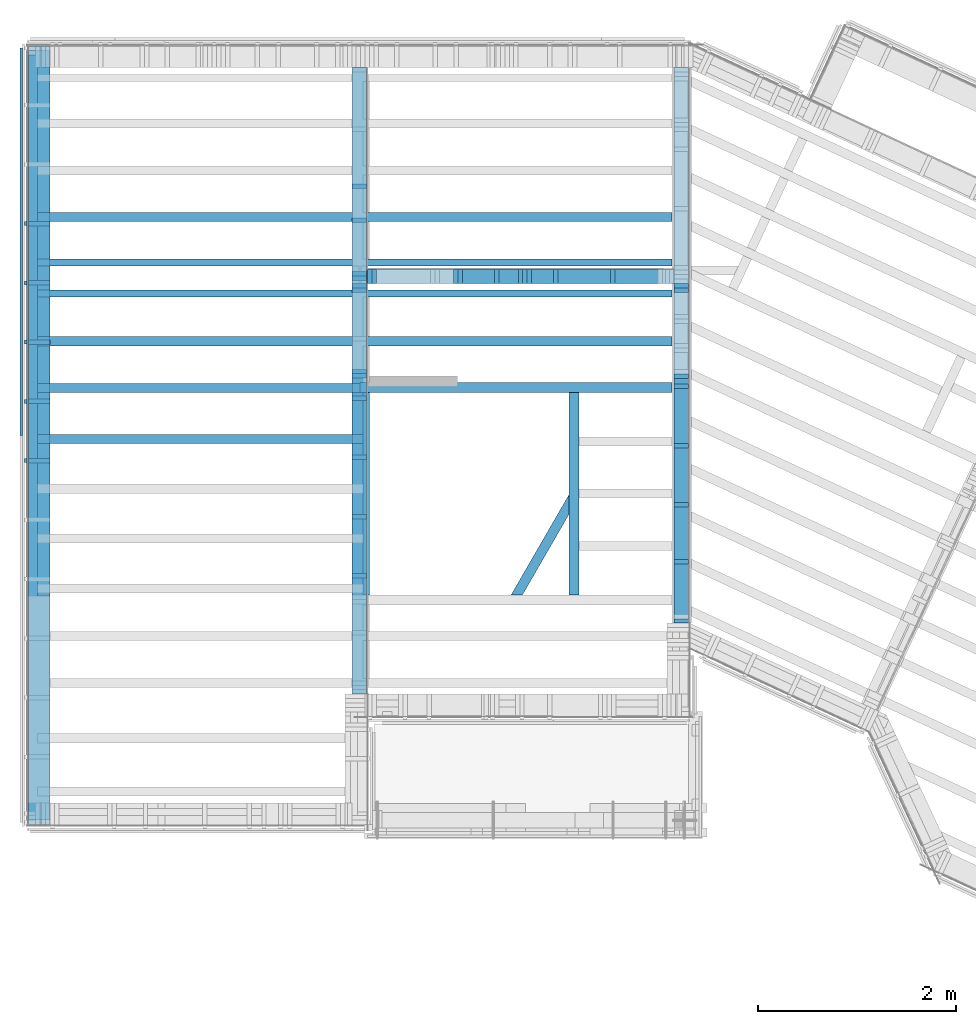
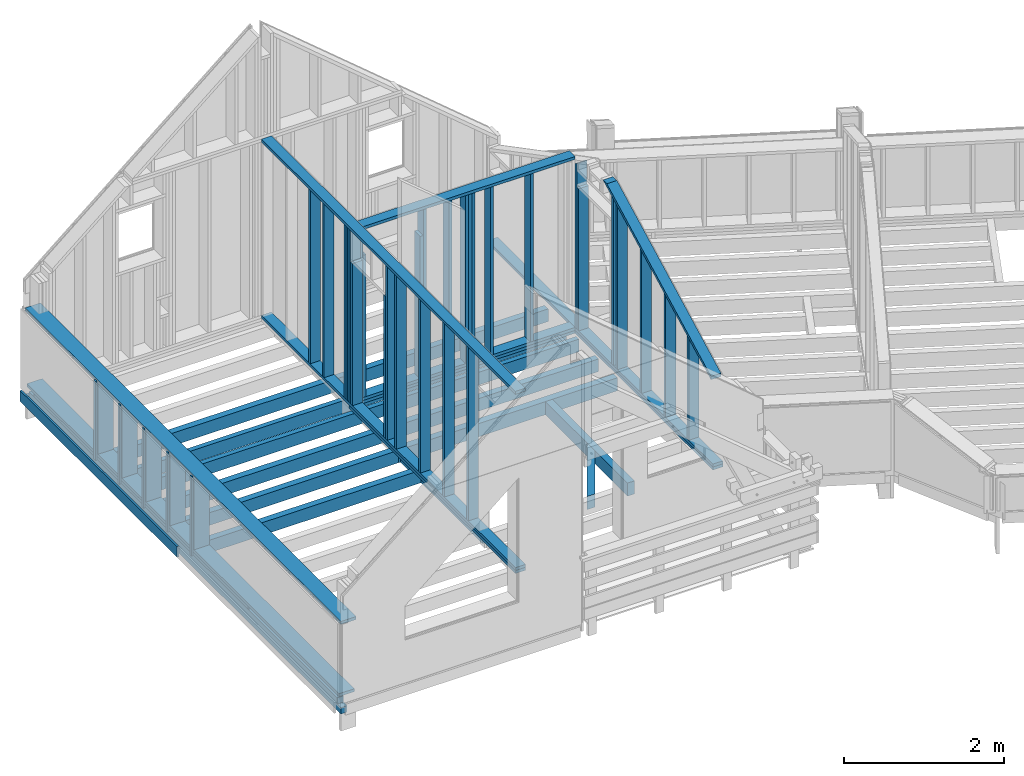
# One storey, part 6 of 24: 63 members.
"""IFC2X3 building model written with IfcOpenShell, lengths in metres."""

from ifc_helpers import new_model, si_unit, direction, frame, origin_with_axes, place, context, subcontext, project, spatial, faceted_brep, material, element, save


model = new_model("IFC2X3")

# Units and contexts
model_context = context("Model", 3, precision=1e-06, world=origin_with_axes(), true_north=direction((0.0, 1.0, 0.0)))
body_context = subcontext(model_context, "Body", "Model", "MODEL_VIEW")
ifc_project = project(units=[si_unit("LENGTHUNIT", "METRE"), si_unit("AREAUNIT", "SQUARE_METRE"), si_unit("VOLUMEUNIT", "CUBIC_METRE"), si_unit("PLANEANGLEUNIT", "RADIAN")], contexts=[model_context])

# Site, building, storey
site_placement = place(None, origin_with_axes())
site = spatial("IfcSite", under=ifc_project, at=site_placement, CompositionType="ELEMENT")
building_placement = place(site_placement, origin_with_axes())
building = spatial("IfcBuilding", under=site, at=building_placement, Name="Building 1", CompositionType="ELEMENT")
storey_placement = place(building_placement, origin_with_axes())
storey = spatial("IfcBuildingStorey", under=building, at=storey_placement, Name="Premier Etage", CompositionType="ELEMENT", Elevation=0.0)

# Members
ifc_material_1 = material(Name="Epicéa C24")
member_1_placement = place(storey_placement, frame((3.3635, 5.5451088, 5.5354713), z_axis=(-1.0, 0.0, 0.0), x_axis=(0.0, 0.0, -1.0)))
element("IfcMember", 1, at=member_1_placement, inside=storey, material=ifc_material_1, Name="Montant", context=body_context, shape_type="Brep", body=[
    faceted_brep([(2.6404713, -0.0225, -0.0725), (2.6404713, 0.0225, -0.0725), (2.6404713, 0.0225, 0.0725), (2.6404713, -0.0225, 0.0725), (0.0, -0.0225, 0.0725), (0.0, -0.0225, -0.0725), (0.0, 0.0225, -0.0725), (0.0, 0.0225, 0.0725)], [[[0, 1, 2, 3]], [[0, 3, 4, 5]], [[1, 0, 5, 6]], [[2, 1, 6, 7]], [[3, 2, 7, 4]], [[4, 7, 6, 5]]]),
])
member_2_placement = place(storey_placement, frame((4.9951817, 5.5627176, 5.4543053), z_axis=(0.0, 1.0, 0.0), x_axis=(0.0, 0.0, -1.0)))
element("IfcMember", 2, at=member_2_placement, inside=storey, material=ifc_material_1, Name="Montant", context=body_context, shape_type="Brep", body=[
    faceted_brep([(2.5593053, -0.0225, -0.0725), (2.5593053, 0.0225, -0.0725), (2.5593053, 0.0225, 0.0725), (2.5593053, -0.0225, 0.0725), (0.0, 0.0225, -0.0725), (0.0, 0.0225, 0.0725), (0.0, -0.0225, -0.0725), (0.0, -0.0225, 0.0725)], [[[0, 1, 2, 3]], [[2, 1, 4, 5]], [[1, 0, 6, 4]], [[0, 3, 7, 6]], [[3, 2, 5, 7]], [[7, 5, 4, 6]]]),
])
member_3_placement = place(storey_placement, frame((3.3635, 4.6001088, 5.061), z_axis=(1.0, 0.0, 0.0), x_axis=(0.0, 0.0, -1.0)))
element("IfcMember", 3, at=member_3_placement, inside=storey, material=ifc_material_1, Name="Montant", context=body_context, shape_type="Brep", body=[
    faceted_brep([(2.166, -0.0225, -0.0725), (2.166, 0.0225, -0.0725), (2.166, 0.0225, 0.0725), (2.166, -0.0225, 0.0725), (0.0, -0.0225, 0.0725), (0.0, -0.0225, -0.0725), (0.0, 0.0225, -0.0725), (0.0, 0.0225, 0.0725)], [[[0, 1, 2, 3]], [[0, 3, 4, 5]], [[1, 0, 5, 6]], [[2, 1, 6, 7]], [[3, 2, 7, 4]], [[4, 7, 6, 5]]]),
])
member_4_placement = place(storey_placement, frame((6.551, 5.5627176, 5.4768053), z_axis=(0.0, -1.0, 0.0), x_axis=(-1.0, 0.0, 0.0)))
element("IfcMember", 4, at=member_4_placement, inside=storey, material=ifc_material_1, Name="Montant", context=body_context, shape_type="Brep", body=[
    faceted_brep([(3.103, 0.0225, -0.0725), (3.103, 0.0225, 0.0725), (3.103, -0.0225, 0.0725), (3.103, -0.0225, -0.0725), (0.0, 0.0225, 0.0725), (0.0, 0.0225, -0.0725), (0.0, -0.0225, -0.0725), (0.0, -0.0225, 0.0725)], [[[0, 1, 2, 3]], [[4, 5, 6, 7]], [[3, 6, 5, 0]], [[2, 7, 6, 3]], [[1, 4, 7, 2]], [[0, 5, 4, 1]]]),
])
member_5_placement = place(storey_placement, frame((5.353, 5.5627176, 5.4543053), z_axis=(0.0, 1.0, 0.0), x_axis=(0.0, 0.0, -1.0)))
element("IfcMember", 5, at=member_5_placement, inside=storey, material=ifc_material_1, Name="Montant", context=body_context, shape_type="Brep", body=[
    faceted_brep([(2.5593053, -0.0225, -0.0725), (2.5593053, 0.0225, -0.0725), (2.5593053, 0.0225, 0.0725), (2.5593053, -0.0225, 0.0725), (0.0, 0.0225, -0.0725), (0.0, 0.0225, 0.0725), (0.0, -0.0225, -0.0725), (0.0, -0.0225, 0.0725)], [[[0, 1, 2, 3]], [[2, 1, 4, 5]], [[1, 0, 6, 4]], [[0, 3, 7, 6]], [[3, 2, 5, 7]], [[7, 5, 4, 6]]]),
])
member_6_placement = place(storey_placement, frame((0.122, 7.896, 4.0003151), z_axis=(1.0, 0.0, 0.0), x_axis=(0.0, -1.0, 0.0)))
element("IfcMember", 6, at=member_6_placement, inside=storey, material=ifc_material_1, Name="Montant", context=body_context, shape_type="Brep", body=[
    faceted_brep([(7.884, 0.0225, -0.11), (7.884, 0.0225, 0.11), (7.884, -0.0225, 0.11), (7.884, -0.0225, -0.11), (0.0, 0.0225, 0.11), (0.0, 0.0225, -0.11), (0.0, -0.0225, -0.11), (0.0, -0.0225, 0.11)], [[[0, 1, 2, 3]], [[4, 5, 6, 7]], [[1, 4, 7, 2]], [[0, 5, 4, 1]], [[3, 6, 5, 0]], [[2, 7, 6, 3]]]),
])
member_7_placement = place(storey_placement, frame((0.122, 5.498, 3.9778151), z_axis=(-1.0, 0.0, 0.0), x_axis=(0.0, 0.0, -1.0)))
element("IfcMember", 7, at=member_7_placement, inside=storey, material=ifc_material_1, Name="Montant", context=body_context, shape_type="Brep", body=[
    faceted_brep([(1.0828151, -0.0225, -0.11), (1.0828151, 0.0225, -0.11), (1.0828151, 0.0225, 0.11), (1.0828151, -0.0225, 0.11), (0.0, -0.0225, 0.11), (0.0, -0.0225, -0.11), (0.0, 0.0225, -0.11), (0.0, 0.0225, 0.11)], [[[0, 1, 2, 3]], [[0, 3, 4, 5]], [[1, 0, 5, 6]], [[2, 1, 6, 7]], [[3, 2, 7, 4]], [[4, 7, 6, 5]]]),
])
member_8_placement = place(storey_placement, frame((3.3635, 5.5901088, 5.5354713), z_axis=(-1.0, 0.0, 0.0), x_axis=(0.0, 0.0, -1.0)))
element("IfcMember", 8, at=member_8_placement, inside=storey, material=ifc_material_1, Name="Montant", context=body_context, shape_type="Brep", body=[
    faceted_brep([(2.6404713, -0.0225, -0.0725), (2.6404713, 0.0225, -0.0725), (2.6404713, 0.0225, 0.0725), (2.6404713, -0.0225, 0.0725), (0.0, -0.0225, 0.0725), (0.0, -0.0225, -0.0725), (0.0, 0.0225, -0.0725), (0.0, 0.0225, 0.0725)], [[[0, 1, 2, 3]], [[0, 3, 4, 5]], [[1, 0, 5, 6]], [[2, 1, 6, 7]], [[3, 2, 7, 4]], [[4, 7, 6, 5]]]),
])
member_9_placement = place(storey_placement, frame((6.6235, 2.0514744, 2.8275), z_axis=(-1.0, 0.0, 0.0), x_axis=(0.0, 1.0, 0.0)))
element("IfcMember", 9, at=member_9_placement, inside=storey, material=ifc_material_1, Name="Lisse basse", context=body_context, shape_type="Brep", body=[
    faceted_brep([(3.4387432, -0.0225, -0.0725), (3.4387432, -0.0225, 0.0725), (0.0, -0.0225, 0.0725), (0.0, -0.0225, -0.0725), (3.4387432, 0.0225, 0.0725), (0.0, 0.0225, 0.0725), (3.4387432, 0.0225, -0.0725), (0.0, 0.0225, -0.0725)], [[[0, 1, 2, 3]], [[1, 4, 5, 2]], [[4, 6, 7, 5]], [[6, 0, 3, 7]], [[0, 6, 4, 1]], [[2, 5, 7, 3]]]),
])
member_10_placement = place(storey_placement, frame((3.3635, 5.4701088, 5.5354713), z_axis=(1.0, 0.0, 0.0), x_axis=(0.0, 0.0, -1.0)))
element("IfcMember", 10, at=member_10_placement, inside=storey, material=ifc_material_1, Name="Montant", context=body_context, shape_type="Brep", body=[
    faceted_brep([(2.6404713, -0.0225, -0.0725), (2.6404713, 0.0225, -0.0725), (2.6404713, 0.0225, 0.0725), (2.6404713, -0.0225, 0.0725), (0.0, -0.0225, 0.0725), (0.0, -0.0225, -0.0725), (0.0, 0.0225, -0.0725), (0.0, 0.0225, 0.0725)], [[[0, 1, 2, 3]], [[0, 3, 4, 5]], [[1, 0, 5, 6]], [[2, 1, 6, 7]], [[3, 2, 7, 4]], [[4, 7, 6, 5]]]),
])
member_11_placement = place(storey_placement, frame((3.5155, 5.5627176, 5.061), z_axis=(0.0, 1.0, 0.0), x_axis=(0.0, 0.0, -1.0)))
element("IfcMember", 11, at=member_11_placement, inside=storey, material=ifc_material_1, Name="Montant", context=body_context, shape_type="Brep", body=[
    faceted_brep([(2.166, -0.0225, -0.0725), (2.166, 0.0225, -0.0725), (2.166, 0.0225, 0.0725), (2.166, -0.0225, 0.0725), (0.0, -0.0225, 0.0725), (0.0, -0.0225, -0.0725), (0.0, 0.0225, -0.0725), (0.0, 0.0225, 0.0725)], [[[0, 1, 2, 3]], [[0, 3, 4, 5]], [[1, 0, 5, 6]], [[2, 1, 6, 7]], [[3, 2, 7, 4]], [[4, 7, 6, 5]]]),
])
member_12_placement = place(storey_placement, frame((6.6235, 3.2494744, 4.7689421), z_axis=(1.0, 0.0, 0.0), x_axis=(0.0, 0.0, -1.0)))
element("IfcMember", 12, at=member_12_placement, inside=storey, material=ifc_material_1, Name="Montant", context=body_context, shape_type="Brep", body=[
    faceted_brep([(0.0235466, -0.0225, 0.0725), (0.0, 0.0225, 0.0725), (0.0, 0.0225, -0.0725), (0.0235466, -0.0225, -0.0725), (1.8739421, 0.0225, 0.0725), (1.8739421, 0.0225, -0.0725), (1.8739421, -0.0225, 0.0725), (1.8739421, -0.0225, -0.0725)], [[[0, 1, 2, 3]], [[2, 1, 4, 5]], [[1, 0, 6, 4]], [[0, 3, 7, 6]], [[7, 5, 4, 6]], [[3, 2, 5, 7]]]),
])
ifc_material_2 = material(Name="NH II")
member_13_placement = place(storey_placement, frame((-0.0595, 3.954, 2.7225), z_axis=(0.0, 0.0, -1.0), x_axis=(0.0, 1.0, 0.0)))
element("IfcMember", 13, at=member_13_placement, inside=storey, material=ifc_material_2, Name="contre poutre", context=body_context, shape_type="Brep", body=[
    faceted_brep([(0.0, 0.0135, -0.0825), (0.0, -0.0135, -0.0825), (0.0, -0.0135, 0.0825), (0.0, 0.0135, 0.0825), (3.922, -0.0135, -0.0825), (3.922, -0.0135, 0.0825), (3.922, 0.0135, -0.0825), (3.922, 0.0135, 0.0825)], [[[0, 1, 2, 3]], [[2, 1, 4, 5]], [[1, 0, 6, 4]], [[6, 7, 5, 4]], [[3, 2, 5, 7]], [[0, 3, 7, 6]]]),
])
member_14_placement = place(storey_placement, frame((0.122, 4.898, 3.9778151), z_axis=(-1.0, 0.0, 0.0), x_axis=(0.0, 0.0, -1.0)))
element("IfcMember", 14, at=member_14_placement, inside=storey, material=ifc_material_1, Name="Montant", context=body_context, shape_type="Brep", body=[
    faceted_brep([(1.0828151, -0.0225, -0.11), (1.0828151, 0.0225, -0.11), (1.0828151, 0.0225, 0.11), (1.0828151, -0.0225, 0.11), (0.0, -0.0225, 0.11), (0.0, -0.0225, -0.11), (0.0, 0.0225, -0.11), (0.0, 0.0225, 0.11)], [[[0, 1, 2, 3]], [[0, 3, 4, 5]], [[1, 0, 5, 6]], [[2, 1, 6, 7]], [[3, 2, 7, 4]], [[4, 7, 6, 5]]]),
])
member_15_placement = place(storey_placement, frame((6.551, 5.5627176, 2.8275), z_axis=(0.0, -1.0, 0.0), x_axis=(-1.0, 0.0, 0.0)))
element("IfcMember", 15, at=member_15_placement, inside=storey, material=ifc_material_1, Name="Lisse basse", context=body_context, shape_type="Brep", body=[
    faceted_brep([(3.115, -0.0225, -0.0725), (0.0, -0.0225, -0.0725), (0.0, 0.0225, -0.0725), (3.115, 0.0225, -0.0725), (3.115, 0.0225, 0.0725), (3.115, -0.0225, 0.0725), (0.0, -0.0225, 0.0725), (0.0, 0.0225, 0.0725)], [[[0, 1, 2, 3]], [[3, 4, 5, 0]], [[2, 1, 6, 7]], [[6, 1, 0, 5]], [[2, 7, 4, 3]], [[7, 6, 5, 4]]]),
])
member_16_placement = place(storey_placement, frame((-0.013, 4.898, 4.0178151), z_axis=(-1.0, 0.0, 0.0), x_axis=(0.0, 0.0, -1.0)))
element("IfcMember", 16, at=member_16_placement, inside=storey, material=ifc_material_1, Name="latte 27/40", context=body_context, shape_type="Brep", body=[
    faceted_brep([(1.2078151, -0.02, 0.012), (0.0, -0.02, 0.012), (0.0, -0.02, -0.012), (1.2078151, -0.02, -0.012), (1.2078151, 0.02, -0.012), (0.0, 0.02, -0.012), (0.0, 0.02, 0.012), (1.2078151, 0.02, 0.012)], [[[0, 1, 2, 3]], [[4, 3, 2, 5]], [[6, 7, 4, 5]], [[0, 7, 6, 1]], [[7, 0, 3, 4]], [[1, 6, 5, 2]]]),
])
member_17_placement = place(storey_placement, frame((0.122, 7.676, 2.8275), z_axis=(1.0, 0.0, 0.0), x_axis=(0.0, -1.0, 0.0)))
element("IfcMember", 17, at=member_17_placement, inside=storey, material=ifc_material_1, Name="Lisse basse", context=body_context, shape_type="Brep", body=[
    faceted_brep([(5.35, 0.0225, 0.11), (5.35, -0.0225, 0.11), (5.35, -0.0225, -0.11), (5.35, 0.0225, -0.11), (0.0, -0.0225, 0.11), (0.0, -0.0225, -0.11), (0.0, 0.0225, 0.11), (0.0, 0.0225, -0.11)], [[[0, 1, 2, 3]], [[2, 1, 4, 5]], [[1, 0, 6, 4]], [[5, 4, 6, 7]], [[0, 3, 7, 6]], [[3, 2, 5, 7]]]),
])
member_18_placement = place(storey_placement, frame((-0.013, 6.098, 4.0178151), z_axis=(-1.0, 0.0, 0.0), x_axis=(0.0, 0.0, -1.0)))
element("IfcMember", 18, at=member_18_placement, inside=storey, material=ifc_material_1, Name="latte 27/40", context=body_context, shape_type="Brep", body=[
    faceted_brep([(1.2078151, -0.02, 0.012), (0.0, -0.02, 0.012), (0.0, -0.02, -0.012), (1.2078151, -0.02, -0.012), (1.2078151, 0.02, -0.012), (0.0, 0.02, -0.012), (0.0, 0.02, 0.012), (1.2078151, 0.02, 0.012)], [[[0, 1, 2, 3]], [[4, 3, 2, 5]], [[6, 7, 4, 5]], [[0, 7, 6, 1]], [[7, 0, 3, 4]], [[1, 6, 5, 2]]]),
])
member_19_placement = place(storey_placement, frame((6.551, 5.5627176, 2.8725), z_axis=(0.0, -1.0, 0.0), x_axis=(-1.0, 0.0, 0.0)))
element("IfcMember", 19, at=member_19_placement, inside=storey, material=ifc_material_1, Name="Montant", context=body_context, shape_type="Brep", body=[
    faceted_brep([(3.103, 0.0225, -0.0725), (3.103, 0.0225, 0.0725), (3.103, -0.0225, 0.0725), (3.103, -0.0225, -0.0725), (0.0, 0.0225, 0.0725), (0.0, 0.0225, -0.0725), (0.0, -0.0225, -0.0725), (0.0, -0.0225, 0.0725)], [[[0, 1, 2, 3]], [[4, 5, 6, 7]], [[3, 6, 5, 0]], [[2, 7, 6, 3]], [[1, 4, 7, 2]], [[0, 5, 4, 1]]]),
])
member_20_placement = place(storey_placement, frame((0.104, 4.4342176, 2.709), z_axis=(0.0, 0.0, -1.0), x_axis=(1.0, 0.0, 0.0)))
element("IfcMember", 20, at=member_20_placement, inside=storey, material=ifc_material_2, Name="Solive", context=body_context, shape_type="Brep", body=[
    faceted_brep([(3.2655, -0.046, 0.096), (3.2655, -0.046, -0.096), (3.2655, 0.046, -0.096), (3.2655, 0.046, 0.096), (0.0, -0.046, -0.096), (0.0, -0.046, 0.096), (0.0, 0.046, 0.096), (0.0, 0.046, -0.096)], [[[0, 1, 2, 3]], [[4, 5, 6, 7]], [[3, 6, 5, 0]], [[2, 7, 6, 3]], [[1, 4, 7, 2]], [[0, 5, 4, 1]]]),
])
member_21_placement = place(storey_placement, frame((5.9285, 5.5627176, 5.4543053), z_axis=(0.0, 1.0, 0.0), x_axis=(0.0, 0.0, -1.0)))
element("IfcMember", 21, at=member_21_placement, inside=storey, material=ifc_material_1, Name="Montant", context=body_context, shape_type="Brep", body=[
    faceted_brep([(2.5593053, -0.0225, -0.0725), (2.5593053, 0.0225, -0.0725), (2.5593053, 0.0225, 0.0725), (2.5593053, -0.0225, 0.0725), (0.0, 0.0225, -0.0725), (0.0, 0.0225, 0.0725), (0.0, -0.0225, -0.0725), (0.0, -0.0225, 0.0725)], [[[0, 1, 2, 3]], [[2, 1, 4, 5]], [[1, 0, 6, 4]], [[0, 3, 7, 6]], [[3, 2, 5, 7]], [[7, 5, 4, 6]]]),
])
member_22_placement = place(storey_placement, frame((6.6235, 4.4494744, 5.3968506), z_axis=(1.0, 0.0, 0.0), x_axis=(0.0, 0.0, -1.0)))
element("IfcMember", 22, at=member_22_placement, inside=storey, material=ifc_material_1, Name="Montant", context=body_context, shape_type="Brep", body=[
    faceted_brep([(0.0235466, -0.0225, 0.0725), (0.0, 0.0225, 0.0725), (0.0, 0.0225, -0.0725), (0.0235466, -0.0225, -0.0725), (2.5018506, 0.0225, 0.0725), (2.5018506, 0.0225, -0.0725), (2.5018506, -0.0225, 0.0725), (2.5018506, -0.0225, -0.0725)], [[[0, 1, 2, 3]], [[2, 1, 4, 5]], [[1, 0, 6, 4]], [[0, 3, 7, 6]], [[7, 5, 4, 6]], [[3, 2, 5, 7]]]),
])
member_23_placement = place(storey_placement, frame((0.104, 3.9182176, 2.709), z_axis=(0.0, 0.0, -1.0), x_axis=(1.0, 0.0, 0.0)))
element("IfcMember", 23, at=member_23_placement, inside=storey, material=ifc_material_2, Name="Solive", context=body_context, shape_type="Brep", body=[
    faceted_brep([(3.294, -0.046, 0.096), (3.294, -0.046, -0.096), (3.294, 0.046, -0.096), (3.294, 0.046, 0.096), (0.0, -0.046, -0.096), (0.0, -0.046, 0.096), (0.0, 0.046, 0.096), (0.0, 0.046, -0.096)], [[[0, 1, 2, 3]], [[4, 5, 6, 7]], [[3, 6, 5, 0]], [[2, 7, 6, 3]], [[1, 4, 7, 2]], [[0, 5, 4, 1]]]),
])
member_24_placement = place(storey_placement, frame((0.122, 7.851, 2.8725), z_axis=(1.0, 0.0, 0.0), x_axis=(0.0, -1.0, 0.0)))
element("IfcMember", 24, at=member_24_placement, inside=storey, material=ifc_material_1, Name="Montant", context=body_context, shape_type="Brep", body=[
    faceted_brep([(7.794, -0.0225, -0.11), (0.0, -0.0225, -0.11), (0.0, 0.0225, -0.11), (7.794, 0.0225, -0.11), (7.794, 0.0225, 0.11), (7.794, -0.0225, 0.11), (0.0, -0.0225, 0.11), (0.0, 0.0225, 0.11)], [[[0, 1, 2, 3]], [[0, 3, 4, 5]], [[6, 1, 0, 5]], [[2, 7, 4, 3]], [[7, 6, 5, 4]], [[2, 1, 6, 7]]]),
])
member_25_placement = place(storey_placement, frame((3.3635, 1.3328281, 2.8725), z_axis=(-1.0, 0.0, 0.0), x_axis=(0.0, 1.0, 0.0)))
element("IfcMember", 25, at=member_25_placement, inside=storey, material=ifc_material_1, Name="Montant", context=body_context, shape_type="Brep", body=[
    faceted_brep([(0.0, 0.0225, -0.0725), (6.3431719, 0.0225, -0.0725), (6.3431719, -0.0225, -0.0725), (0.0, -0.0225, -0.0725), (6.3431719, -0.0225, 0.0725), (0.0, -0.0225, 0.0725), (6.3431719, 0.0225, 0.0725), (0.0, 0.0225, 0.0725)], [[[0, 1, 2, 3]], [[4, 5, 3, 2]], [[6, 4, 2, 1]], [[7, 6, 1, 0]], [[5, 4, 6, 7]], [[5, 7, 0, 3]]]),
])
member_26_placement = place(storey_placement, frame((5.0401817, 5.5627176, 5.4543053), z_axis=(0.0, 1.0, 0.0), x_axis=(0.0, 0.0, -1.0)))
element("IfcMember", 26, at=member_26_placement, inside=storey, material=ifc_material_1, Name="Montant", context=body_context, shape_type="Brep", body=[
    faceted_brep([(2.5593053, -0.0225, -0.0725), (2.5593053, 0.0225, -0.0725), (2.5593053, 0.0225, 0.0725), (2.5593053, -0.0225, 0.0725), (0.0, 0.0225, -0.0725), (0.0, 0.0225, 0.0725), (0.0, -0.0225, -0.0725), (0.0, -0.0225, 0.0725)], [[[0, 1, 2, 3]], [[2, 1, 4, 5]], [[1, 0, 6, 4]], [[0, 3, 7, 6]], [[3, 2, 5, 7]], [[7, 5, 4, 6]]]),
])
member_27_placement = place(storey_placement, frame((3.3635, 1.3328281, 5.5579713), z_axis=(-1.0, 0.0, 0.0), x_axis=(0.0, 1.0, 0.0)))
element("IfcMember", 27, at=member_27_placement, inside=storey, material=ifc_material_1, Name="Montant", context=body_context, shape_type="Brep", body=[
    faceted_brep([(0.0, 0.0225, -0.0725), (6.3431719, 0.0225, -0.0725), (6.3431719, -0.0225, -0.0725), (0.0, -0.0225, -0.0725), (6.3431719, -0.0225, 0.0725), (0.0, -0.0225, 0.0725), (6.3431719, 0.0225, 0.0725), (0.0, 0.0225, 0.0725)], [[[0, 1, 2, 3]], [[4, 5, 3, 2]], [[6, 4, 2, 1]], [[7, 6, 1, 0]], [[5, 4, 6, 7]], [[5, 7, 0, 3]]]),
])
for number, where, z_axis, x_axis in (
    (28, (0.104, 5.3902176, 2.709), (0.0, 0.0, -1.0), (1.0, 0.0, 0.0)),
    (29, (0.104, 5.7022176, 2.709), (0.0, 0.0, -1.0), (1.0, 0.0, 0.0)),
):
    element("IfcMember", number, at=place(storey_placement, frame(where, z_axis=z_axis, x_axis=x_axis)), inside=storey, material=ifc_material_2, Name="Solive", context=body_context, shape_type="Brep", body=[
        faceted_brep([(6.424, -0.035, 0.096), (6.424, -0.035, -0.096), (6.424, 0.035, -0.096), (6.424, 0.035, 0.096), (0.0, -0.035, -0.096), (0.0, 0.035, -0.096), (0.0, -0.035, 0.096), (0.0, 0.035, 0.096)], [[[0, 1, 2, 3]], [[2, 1, 4, 5]], [[1, 0, 6, 4]], [[0, 3, 7, 6]], [[4, 6, 7, 5]], [[3, 2, 5, 7]]]),
    ])
member_28_placement = place(storey_placement, frame((0.104, 4.9067176, 2.709), z_axis=(0.0, 0.0, -1.0), x_axis=(1.0, 0.0, 0.0)))
element("IfcMember", 30, at=member_28_placement, inside=storey, material=ifc_material_2, Name="Solive", context=body_context, shape_type="Brep", body=[
    faceted_brep([(6.424, -0.046, 0.096), (6.424, -0.046, -0.096), (6.424, 0.046, -0.096), (6.424, 0.046, 0.096), (0.0, -0.046, -0.096), (0.0, -0.046, 0.096), (0.0, 0.046, 0.096), (0.0, 0.046, -0.096)], [[[0, 1, 2, 3]], [[4, 5, 6, 7]], [[3, 6, 5, 0]], [[2, 7, 6, 3]], [[1, 4, 7, 2]], [[0, 5, 4, 1]]]),
])
member_29_placement = place(storey_placement, frame((3.4705, 5.5627176, 5.4543053), z_axis=(0.0, 1.0, 0.0), x_axis=(0.0, 0.0, -1.0)))
element("IfcMember", 31, at=member_29_placement, inside=storey, material=ifc_material_1, Name="Montant", context=body_context, shape_type="Brep", body=[
    faceted_brep([(2.5593053, -0.0225, -0.0725), (2.5593053, 0.0225, -0.0725), (2.5593053, 0.0225, 0.0725), (2.5593053, -0.0225, 0.0725), (0.0, 0.0225, -0.0725), (0.0, 0.0225, 0.0725), (0.0, -0.0225, -0.0725), (0.0, -0.0225, 0.0725)], [[[0, 1, 2, 3]], [[2, 1, 4, 5]], [[1, 0, 6, 4]], [[0, 3, 7, 6]], [[3, 2, 5, 7]], [[7, 5, 4, 6]]]),
])
member_30_placement = place(storey_placement, frame((3.3635, 1.3328281, 2.8275), z_axis=(-1.0, 0.0, 0.0), x_axis=(0.0, 1.0, 0.0)))
element("IfcMember", 32, at=member_30_placement, inside=storey, material=ifc_material_1, Name="Lisse basse", context=body_context, shape_type="Brep", body=[
    faceted_brep([(4.1573895, -0.0225, -0.0725), (4.1573895, -0.0225, 0.0725), (0.0, -0.0225, 0.0725), (0.0, -0.0225, -0.0725), (4.1573895, 0.0225, 0.0725), (0.0, 0.0225, 0.0725), (4.1573895, 0.0225, -0.0725), (0.0, 0.0225, -0.0725)], [[[0, 1, 2, 3]], [[1, 4, 5, 2]], [[4, 6, 7, 5]], [[6, 0, 3, 7]], [[0, 6, 4, 1]], [[2, 5, 7, 3]]]),
])
member_31_placement = place(storey_placement, frame((6.6235, 2.6739744, 4.4678077), z_axis=(1.0, 0.0, 0.0), x_axis=(0.0, 0.0, -1.0)))
element("IfcMember", 33, at=member_31_placement, inside=storey, material=ifc_material_1, Name="Montant", context=body_context, shape_type="Brep", body=[
    faceted_brep([(0.0235466, -0.0225, 0.0725), (0.0, 0.0225, 0.0725), (0.0, 0.0225, -0.0725), (0.0235466, -0.0225, -0.0725), (1.5728077, 0.0225, 0.0725), (1.5728077, 0.0225, -0.0725), (1.5728077, -0.0225, 0.0725), (1.5728077, -0.0225, -0.0725)], [[[0, 1, 2, 3]], [[2, 1, 4, 5]], [[1, 0, 6, 4]], [[0, 3, 7, 6]], [[7, 5, 4, 6]], [[3, 2, 5, 7]]]),
])
member_32_placement = place(storey_placement, frame((6.6235, 2.0514744, 2.8725), z_axis=(-1.0, 0.0, 0.0), x_axis=(0.0, 1.0, 0.0)))
element("IfcMember", 34, at=member_32_placement, inside=storey, material=ifc_material_1, Name="Montant", context=body_context, shape_type="Brep", body=[
    faceted_brep([(0.0, 0.0225, -0.0725), (5.6245257, 0.0225, -0.0725), (5.6245257, -0.0225, -0.0725), (0.0, -0.0225, -0.0725), (5.6245257, -0.0225, 0.0725), (0.0, -0.0225, 0.0725), (5.6245257, 0.0225, 0.0725), (0.0, 0.0225, 0.0725)], [[[0, 1, 2, 3]], [[4, 5, 3, 2]], [[6, 4, 2, 1]], [[7, 6, 1, 0]], [[5, 4, 6, 7]], [[5, 7, 0, 3]]]),
])
member_33_placement = place(storey_placement, frame((3.433, 2.3382176, 2.709), z_axis=(0.0, 0.0, -1.0), x_axis=(0.0, 1.0, 0.0)))
element("IfcMember", 35, at=member_33_placement, inside=storey, material=ifc_material_2, Name="Solive", context=body_context, shape_type="Brep", body=[
    faceted_brep([(0.0, 0.035, 0.096), (0.0, 0.035, -0.096), (0.0, -0.035, -0.096), (0.0, -0.035, 0.096), (2.05, 0.035, -0.096), (2.05, 0.035, 0.096), (2.05, -0.035, 0.096), (2.05, -0.035, -0.096)], [[[0, 1, 2, 3]], [[4, 5, 6, 7]], [[3, 6, 5, 0]], [[2, 7, 6, 3]], [[1, 4, 7, 2]], [[0, 5, 4, 1]]]),
])
member_34_placement = place(storey_placement, frame((6.6235, 5.4677176, 5.4186317), z_axis=(1.0, 0.0, 0.0), x_axis=(0.0, 0.0, -1.0)))
element("IfcMember", 36, at=member_34_placement, inside=storey, material=ifc_material_1, Name="Montant", context=body_context, shape_type="Brep", body=[
    faceted_brep([(0.0, -0.0225, 0.0725), (0.0235466, 0.0225, 0.0725), (0.0235466, 0.0225, -0.0725), (0.0, -0.0225, -0.0725), (2.5236317, 0.0225, 0.0725), (2.5236317, 0.0225, -0.0725), (2.5236317, -0.0225, 0.0725), (2.5236317, -0.0225, -0.0725)], [[[0, 1, 2, 3]], [[2, 1, 4, 5]], [[1, 0, 6, 4]], [[0, 3, 7, 6]], [[7, 5, 4, 6]], [[3, 2, 5, 7]]]),
])
member_35_placement = place(storey_placement, frame((3.3635, 2.5308281, 5.5354713), z_axis=(1.0, 0.0, 0.0), x_axis=(0.0, 0.0, -1.0)))
element("IfcMember", 37, at=member_35_placement, inside=storey, material=ifc_material_1, Name="Montant", context=body_context, shape_type="Brep", body=[
    faceted_brep([(2.6404713, -0.0225, -0.0725), (2.6404713, 0.0225, -0.0725), (2.6404713, 0.0225, 0.0725), (2.6404713, -0.0225, 0.0725), (0.0, -0.0225, 0.0725), (0.0, -0.0225, -0.0725), (0.0, 0.0225, -0.0725), (0.0, 0.0225, 0.0725)], [[[0, 1, 2, 3]], [[0, 3, 4, 5]], [[1, 0, 5, 6]], [[2, 1, 6, 7]], [[3, 2, 7, 4]], [[4, 7, 6, 5]]]),
])
member_36_placement = place(storey_placement, frame((0.104, 6.1641632, 2.709), z_axis=(0.0, 0.0, -1.0), x_axis=(1.0, 0.0, 0.0)))
element("IfcMember", 38, at=member_36_placement, inside=storey, material=ifc_material_2, Name="Solive", context=body_context, shape_type="Brep", body=[
    faceted_brep([(6.424, -0.046, 0.096), (6.424, -0.046, -0.096), (6.424, 0.046, -0.096), (6.424, 0.046, 0.096), (0.0, -0.046, -0.096), (0.0, -0.046, 0.096), (0.0, 0.046, 0.096), (0.0, 0.046, -0.096)], [[[0, 1, 2, 3]], [[4, 5, 6, 7]], [[3, 6, 5, 0]], [[2, 7, 6, 3]], [[1, 4, 7, 2]], [[0, 5, 4, 1]]]),
])
member_37_placement = place(storey_placement, frame((3.3635, 4.5551088, 5.5354713), z_axis=(1.0, 0.0, 0.0), x_axis=(0.0, 0.0, -1.0)))
element("IfcMember", 39, at=member_37_placement, inside=storey, material=ifc_material_1, Name="Montant", context=body_context, shape_type="Brep", body=[
    faceted_brep([(2.6404713, -0.0225, -0.0725), (2.6404713, 0.0225, -0.0725), (2.6404713, 0.0225, 0.0725), (2.6404713, -0.0225, 0.0725), (0.0, -0.0225, 0.0725), (0.0, -0.0225, -0.0725), (0.0, 0.0225, -0.0725), (0.0, 0.0225, 0.0725)], [[[0, 1, 2, 3]], [[0, 3, 4, 5]], [[1, 0, 5, 6]], [[2, 1, 6, 7]], [[3, 2, 7, 4]], [[4, 7, 6, 5]]]),
])
member_38_placement = place(storey_placement, frame((5.537, 4.3882176, 2.705), z_axis=(0.0, 0.0, -1.0), x_axis=(0.0, -1.0, 0.0)))
element("IfcMember", 40, at=member_38_placement, inside=storey, material=ifc_material_2, Name="Poutre Lc", context=body_context, shape_type="Brep", body=[
    faceted_brep([(2.05, -0.05, 0.1), (2.05, -0.05, -0.1), (2.05, 0.05, -0.1), (2.05, 0.05, 0.1), (0.0, -0.05, -0.1), (0.0, -0.05, 0.1), (0.0, 0.05, 0.1), (0.0, 0.05, -0.1)], [[[0, 1, 2, 3]], [[4, 5, 6, 7]], [[3, 6, 5, 0]], [[2, 7, 6, 3]], [[1, 4, 7, 2]], [[0, 5, 4, 1]]]),
])
member_39_placement = place(storey_placement, frame((6.6235, 3.8494744, 5.0828963), z_axis=(1.0, 0.0, 0.0), x_axis=(0.0, 0.0, -1.0)))
element("IfcMember", 41, at=member_39_placement, inside=storey, material=ifc_material_1, Name="Montant", context=body_context, shape_type="Brep", body=[
    faceted_brep([(0.0235466, -0.0225, 0.0725), (0.0, 0.0225, 0.0725), (0.0, 0.0225, -0.0725), (0.0235466, -0.0225, -0.0725), (2.1878963, 0.0225, 0.0725), (2.1878963, 0.0225, -0.0725), (2.1878963, -0.0225, 0.0725), (2.1878963, -0.0225, -0.0725)], [[[0, 1, 2, 3]], [[2, 1, 4, 5]], [[1, 0, 6, 4]], [[0, 3, 7, 6]], [[7, 5, 4, 6]], [[3, 2, 5, 7]]]),
])
member_40_placement = place(storey_placement, frame((6.6235, 2.0860428, 4.1737892), z_axis=(-1.0, 0.0, 0.0), x_axis=(0.0, 0.8860327, 0.4636228)))
element("IfcMember", 42, at=member_40_placement, inside=storey, material=ifc_material_1, Name="Montant", context=body_context, shape_type="Brep", body=[
    faceted_brep([(3.0433991, 0.0225, 0.0725), (3.043472, 0.0223607, 0.0725), (3.043472, 0.0223607, -0.0725), (3.0433991, 0.0225, -0.0725), (2.9577385, -0.0225, 0.0725), (2.9577385, -0.0225, -0.0725), (0.0, 0.0225, 0.0725), (0.0235466, -0.0225, 0.0725), (0.0, 0.0225, -0.0725), (0.0235466, -0.0225, -0.0725)], [[[0, 1, 2, 3]], [[2, 1, 4, 5]], [[1, 0, 6, 7, 4]], [[0, 3, 8, 6]], [[3, 2, 5, 9, 8]], [[7, 9, 5, 4]], [[6, 8, 9, 7]]]),
])
for number, where, z_axis, x_axis, name in (
    (43, (3.3635, 6.1308281, 5.5354713), (1.0, 0.0, 0.0), (0.0, 0.0, -1.0), "Montant"),
    (44, (3.3635, 6.478, 5.5354713), (1.0, 0.0, 0.0), (0.0, 0.0, -1.0), "Montant"),
    (45, (3.3635, 3.1308281, 5.5354713), (1.0, 0.0, 0.0), (0.0, 0.0, -1.0), "Montant"),
    (46, (3.3635, 3.7308281, 5.5354713), (1.0, 0.0, 0.0), (0.0, 0.0, -1.0), "Montant"),
    (47, (3.3635, 4.3308281, 5.5354713), (1.0, 0.0, 0.0), (0.0, 0.0, -1.0), "Montant"),
):
    element("IfcMember", number, at=place(storey_placement, frame(where, z_axis=z_axis, x_axis=x_axis)), inside=storey, material=ifc_material_1, Name=name, context=body_context, shape_type="Brep", body=[
        faceted_brep([(2.6404713, -0.0225, -0.0725), (2.6404713, 0.0225, -0.0725), (2.6404713, 0.0225, 0.0725), (2.6404713, -0.0225, 0.0725), (0.0, -0.0225, 0.0725), (0.0, -0.0225, -0.0725), (0.0, 0.0225, -0.0725), (0.0, 0.0225, 0.0725)], [[[0, 1, 2, 3]], [[0, 3, 4, 5]], [[1, 0, 5, 6]], [[2, 1, 6, 7]], [[3, 2, 7, 4]], [[4, 7, 6, 5]]]),
    ])
for number, where, z_axis, x_axis, name in (
    (48, (0.122, 3.698, 3.9778151), (-1.0, 0.0, 0.0), (0.0, 0.0, -1.0), "Montant"),
    (49, (0.122, 6.098, 3.9778151), (-1.0, 0.0, 0.0), (0.0, 0.0, -1.0), "Montant"),
    (50, (0.122, 4.298, 3.9778151), (-1.0, 0.0, 0.0), (0.0, 0.0, -1.0), "Montant"),
):
    element("IfcMember", number, at=place(storey_placement, frame(where, z_axis=z_axis, x_axis=x_axis)), inside=storey, material=ifc_material_1, Name=name, context=body_context, shape_type="Brep", body=[
        faceted_brep([(1.0828151, -0.0225, -0.11), (1.0828151, 0.0225, -0.11), (1.0828151, 0.0225, 0.11), (1.0828151, -0.0225, 0.11), (0.0, -0.0225, 0.11), (0.0, -0.0225, -0.11), (0.0, 0.0225, -0.11), (0.0, 0.0225, 0.11)], [[[0, 1, 2, 3]], [[0, 3, 4, 5]], [[1, 0, 5, 6]], [[2, 1, 6, 7]], [[3, 2, 7, 4]], [[4, 7, 6, 5]]]),
    ])
for number, where, z_axis, x_axis, name in (
    (51, (-0.013, 4.298, 4.0178151), (-1.0, 0.0, 0.0), (0.0, 0.0, -1.0), "latte 27/40"),
    (52, (-0.013, 3.698, 4.0178151), (-1.0, 0.0, 0.0), (0.0, 0.0, -1.0), "latte 27/40"),
    (53, (-0.013, 5.498, 4.0178151), (-1.0, 0.0, 0.0), (0.0, 0.0, -1.0), "latte 27/40"),
):
    element("IfcMember", number, at=place(storey_placement, frame(where, z_axis=z_axis, x_axis=x_axis)), inside=storey, material=ifc_material_1, Name=name, context=body_context, shape_type="Brep", body=[
        faceted_brep([(1.2078151, -0.02, 0.012), (0.0, -0.02, 0.012), (0.0, -0.02, -0.012), (1.2078151, -0.02, -0.012), (1.2078151, 0.02, -0.012), (0.0, 0.02, -0.012), (0.0, 0.02, 0.012), (1.2078151, 0.02, 0.012)], [[[0, 1, 2, 3]], [[4, 3, 2, 5]], [[6, 7, 4, 5]], [[0, 7, 6, 1]], [[7, 0, 3, 4]], [[1, 6, 5, 2]]]),
    ])
member_41_placement = place(storey_placement, frame((5.5284262, 3.32697, 2.705), z_axis=(0.0, 0.0, -1.0), x_axis=(-0.5, -0.8660254, 0.0)))
element("IfcMember", 54, at=member_41_placement, inside=storey, material=ifc_material_2, Name="Poutre Lc", context=body_context, shape_type="Brep", body=[
    faceted_brep([(0.0, 0.0478349, 0.1), (0.00125, 0.05, 0.1), (0.00125, 0.05, -0.1), (0.0, 0.0478349, -0.1), (1.1705804, 0.05, 0.1), (1.1705804, 0.05, -0.1), (0.1694551, -0.05, 0.1), (1.1128454, -0.05, 0.1), (1.1128454, -0.05, -0.1), (0.1694551, -0.05, -0.1)], [[[0, 1, 2, 3]], [[2, 1, 4, 5]], [[1, 0, 6, 7, 4]], [[4, 7, 8, 5]], [[8, 7, 6, 9]], [[3, 2, 5, 8, 9]], [[0, 3, 9, 6]]]),
])
member_42_placement = place(storey_placement, frame((4.753, 5.5627176, 5.4543053), z_axis=(0.0, 1.0, 0.0), x_axis=(0.0, 0.0, -1.0)))
element("IfcMember", 55, at=member_42_placement, inside=storey, material=ifc_material_1, Name="Montant", context=body_context, shape_type="Brep", body=[
    faceted_brep([(2.5593053, -0.0225, -0.0725), (2.5593053, 0.0225, -0.0725), (2.5593053, 0.0225, 0.0725), (2.5593053, -0.0225, 0.0725), (0.0, 0.0225, -0.0725), (0.0, 0.0225, 0.0725), (0.0, -0.0225, -0.0725), (0.0, -0.0225, 0.0725)], [[[0, 1, 2, 3]], [[2, 1, 4, 5]], [[1, 0, 6, 4]], [[0, 3, 7, 6]], [[3, 2, 5, 7]], [[7, 5, 4, 6]]]),
])
member_43_placement = place(storey_placement, frame((6.6235, 5.4227176, 5.061), z_axis=(1.0, 0.0, 0.0), x_axis=(0.0, 0.0, -1.0)))
element("IfcMember", 56, at=member_43_placement, inside=storey, material=ifc_material_1, Name="Montant", context=body_context, shape_type="Brep", body=[
    faceted_brep([(2.166, -0.0225, -0.0725), (2.166, 0.0225, -0.0725), (2.166, 0.0225, 0.0725), (2.166, -0.0225, 0.0725), (0.0, -0.0225, 0.0725), (0.0, -0.0225, -0.0725), (0.0, 0.0225, -0.0725), (0.0, 0.0225, 0.0725)], [[[0, 1, 2, 3]], [[0, 3, 4, 5]], [[1, 0, 5, 6]], [[2, 1, 6, 7]], [[3, 2, 7, 4]], [[4, 7, 6, 5]]]),
])
member_44_placement = place(storey_placement, frame((5.0851817, 5.5627176, 5.4543053), z_axis=(0.0, 1.0, 0.0), x_axis=(0.0, 0.0, -1.0)))
element("IfcMember", 57, at=member_44_placement, inside=storey, material=ifc_material_1, Name="Montant", context=body_context, shape_type="Brep", body=[
    faceted_brep([(2.5593053, -0.0225, -0.0725), (2.5593053, 0.0225, -0.0725), (2.5593053, 0.0225, 0.0725), (2.5593053, -0.0225, 0.0725), (0.0, 0.0225, -0.0725), (0.0, 0.0225, 0.0725), (0.0, -0.0225, -0.0725), (0.0, -0.0225, 0.0725)], [[[0, 1, 2, 3]], [[2, 1, 4, 5]], [[1, 0, 6, 4]], [[0, 3, 7, 6]], [[3, 2, 5, 7]], [[7, 5, 4, 6]]]),
])
member_45_placement = place(storey_placement, frame((0.058, 7.896, 2.709), z_axis=(0.0, 0.0, -1.0), x_axis=(0.0, -1.0, 0.0)))
element("IfcMember", 58, at=member_45_placement, inside=storey, material=ifc_material_2, Name="Ceinture", context=body_context, shape_type="Brep", body=[
    faceted_brep([(7.884, -0.046, 0.0), (7.792, -0.046, 0.0), (7.792, 0.046, 0.0), (7.884, 0.046, 0.0), (7.792, -0.046, -0.096), (7.792, 0.046, -0.096), (7.884, 0.046, 0.096), (7.884, -0.046, 0.096), (0.092, 0.046, -0.096), (0.092, 0.046, 0.0), (0.0, 0.046, 0.0), (0.0, 0.046, 0.096), (0.092, -0.046, -0.096), (0.092, -0.046, 0.0), (0.0, -0.046, 0.0), (0.0, -0.046, 0.096)], [[[0, 1, 2, 3]], [[1, 4, 5, 2]], [[0, 3, 6, 7]], [[3, 2, 5, 8, 9, 10, 11, 6]], [[12, 13, 9, 8]], [[13, 14, 10, 9]], [[5, 4, 12, 8]], [[10, 14, 15, 11]], [[6, 11, 15, 7]], [[1, 0, 7, 15, 14, 13, 12, 4]]]),
])
member_46_placement = place(storey_placement, frame((6.6235, 4.5527176, 5.4508733), z_axis=(1.0, 0.0, 0.0), x_axis=(0.0, 0.0, -1.0)))
element("IfcMember", 59, at=member_46_placement, inside=storey, material=ifc_material_1, Name="Montant", context=body_context, shape_type="Brep", body=[
    faceted_brep([(0.0235466, -0.0225, 0.0725), (0.0, 0.0225, 0.0725), (0.0, 0.0225, -0.0725), (0.0235466, -0.0225, -0.0725), (2.5558733, 0.0225, 0.0725), (2.5558733, 0.0225, -0.0725), (2.5558733, -0.0225, 0.0725), (2.5558733, -0.0225, -0.0725)], [[[0, 1, 2, 3]], [[2, 1, 4, 5]], [[1, 0, 6, 4]], [[0, 3, 7, 6]], [[7, 5, 4, 6]], [[3, 2, 5, 7]]]),
])
member_47_placement = place(storey_placement, frame((6.528, 4.4382176, 2.705), z_axis=(0.0, 0.0, -1.0), x_axis=(-1.0, 0.0, 0.0)))
element("IfcMember", 60, at=member_47_placement, inside=storey, material=ifc_material_2, Name="Poutre Lc", context=body_context, shape_type="Brep", body=[
    faceted_brep([(3.08, 0.05, 0.1), (3.08, 0.05, 0.092), (3.1585, 0.05, 0.092), (3.1585, 0.05, -0.1), (0.0, 0.05, -0.1), (0.0, 0.05, 0.1), (3.1585, -0.05, -0.1), (0.0, -0.05, -0.1), (3.08, -0.05, 0.092), (3.08, -0.05, 0.1), (0.0, -0.05, 0.1), (3.1585, -0.05, 0.092)], [[[0, 1, 2, 3, 4, 5]], [[4, 3, 6, 7]], [[8, 9, 10, 7, 6, 11]], [[2, 11, 6, 3]], [[2, 1, 8, 11]], [[1, 0, 9, 8]], [[5, 4, 7, 10]], [[9, 0, 5, 10]]]),
])
member_48_placement = place(storey_placement, frame((4.3855, 5.5627176, 5.4543053), z_axis=(0.0, 1.0, 0.0), x_axis=(0.0, 0.0, -1.0)))
element("IfcMember", 61, at=member_48_placement, inside=storey, material=ifc_material_1, Name="Montant", context=body_context, shape_type="Brep", body=[
    faceted_brep([(2.5593053, -0.0225, -0.0725), (2.5593053, 0.0225, -0.0725), (2.5593053, 0.0225, 0.0725), (2.5593053, -0.0225, 0.0725), (0.0, 0.0225, -0.0725), (0.0, 0.0225, 0.0725), (0.0, -0.0225, -0.0725), (0.0, -0.0225, 0.0725)], [[[0, 1, 2, 3]], [[2, 1, 4, 5]], [[1, 0, 6, 4]], [[0, 3, 7, 6]], [[3, 2, 5, 7]], [[7, 5, 4, 6]]]),
])
for number, where, z_axis, x_axis, name in (
    (62, (4.3405, 5.5627176, 5.061), (0.0, 1.0, 0.0), (0.0, 0.0, -1.0), "Montant"),
    (63, (3.3635, 5.4251088, 5.061), (1.0, 0.0, 0.0), (0.0, 0.0, -1.0), "Montant"),
):
    element("IfcMember", number, at=place(storey_placement, frame(where, z_axis=z_axis, x_axis=x_axis)), inside=storey, material=ifc_material_1, Name=name, context=body_context, shape_type="Brep", body=[
        faceted_brep([(2.166, -0.0225, -0.0725), (2.166, 0.0225, -0.0725), (2.166, 0.0225, 0.0725), (2.166, -0.0225, 0.0725), (0.0, -0.0225, 0.0725), (0.0, -0.0225, -0.0725), (0.0, 0.0225, -0.0725), (0.0, 0.0225, 0.0725)], [[[0, 1, 2, 3]], [[0, 3, 4, 5]], [[1, 0, 5, 6]], [[2, 1, 6, 7]], [[3, 2, 7, 4]], [[4, 7, 6, 5]]]),
    ])

save(model, "model.ifc")
